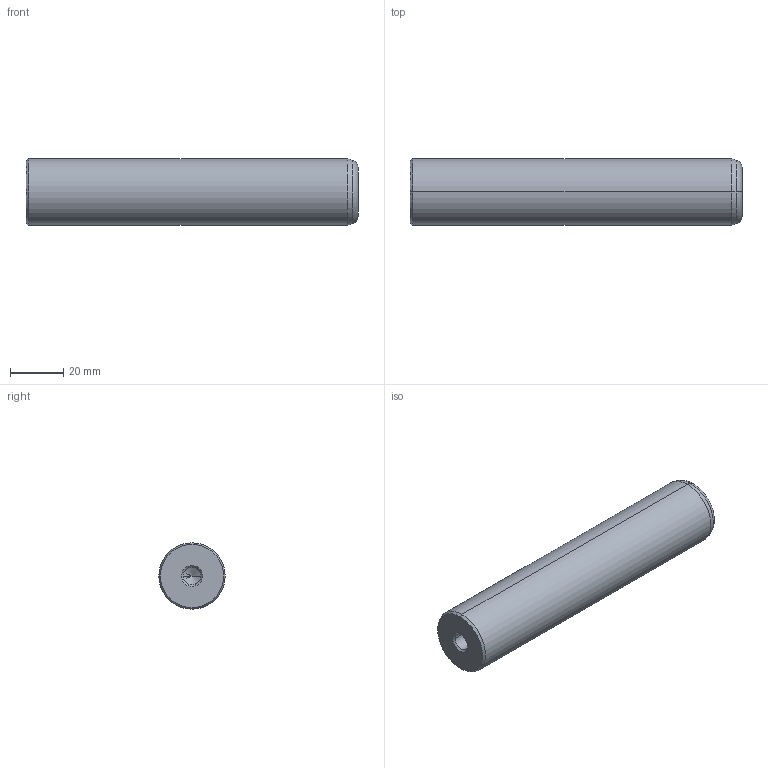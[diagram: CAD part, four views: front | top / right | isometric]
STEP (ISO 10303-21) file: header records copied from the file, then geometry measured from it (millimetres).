
FILE_DESCRIPTION(('CATIA V5 STEP Exchange'),'2;1');
FILE_NAME('C:\Users\Utente\Desktop\IO LAVORO\3D X SITO CF\X SITO\720\720-25x125.stp','2021-01-01T12:44:45+00:00',('none'),('none'),'CATIA Version 5 Release 20 GA (IN-10)','CATIA V5 STEP AP203','none');
FILE_SCHEMA(('CONFIG_CONTROL_DESIGN'));
Length unit declared in the file: millimetre
Products named in the file (1): 720-25x125
Bounding box: 125 x 25 x 25 mm (x, y, z)
Volume: 59382.6 mm3; surface area: 11628.1 mm2
Topology: 1 solids, 1 shells, 22 faces, 62 edges, 40 vertices
Faces by surface type: cone 12, cylinder 6, plane 2, torus 2
Entity records: 806 total; most frequent: CARTESIAN_POINT 229, ORIENTED_EDGE 116, DIRECTION 93, EDGE_CURVE 58, AXIS2_PLACEMENT_3D 54, VERTEX_POINT 40, CIRCLE 31, EDGE_LOOP 24
